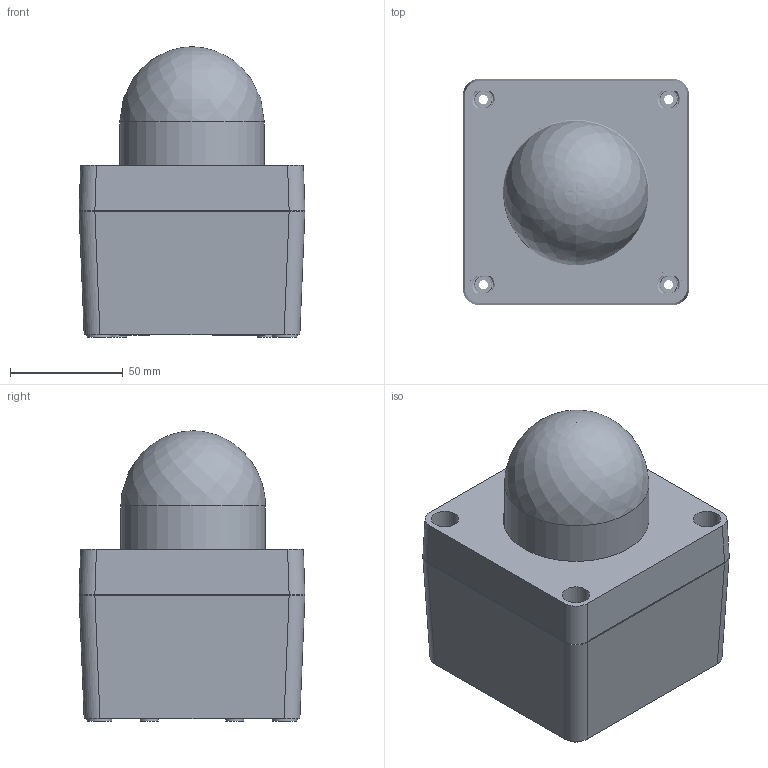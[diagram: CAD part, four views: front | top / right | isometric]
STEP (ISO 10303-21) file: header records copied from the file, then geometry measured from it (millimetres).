
FILE_DESCRIPTION(('FreeCAD Model'),'2;1');
FILE_NAME('Open CASCADE Shape Model','2025-11-28T23:17:06',(''),(''), 'Open CASCADE STEP processor 7.6','FreeCAD','Unknown');
FILE_SCHEMA(('AUTOMOTIVE_DESIGN { 1 0 10303 214 1 1 1 1 }'));
Length unit declared in the file: millimetre
Products named in the file (7): CameraCase100 Simplified; CameraCase100 O Ring 005; CameraCase100 Cap 004; CameraCase100 Body 004; 250312-DomeD64H59-009; 250312-DomeD64H35-005; Camera Case100 DomeBracket 006
Assembly tree (6 placements, depth 2):
  CameraCase100 Simplified
    CameraCase100 O Ring 005
    CameraCase100 Cap 004
    CameraCase100 Body 004
    250312-DomeD64H59-009
    250312-DomeD64H35-005
    Camera Case100 DomeBracket 006
Bounding box: 100 x 100 x 128.5 mm (x, y, z)
Volume: 241728.6 mm3; surface area: 157185.6 mm2
Topology: 6 solids, 6 shells, 911 faces, 2442 edges, 1619 vertices
Faces by surface type: plane 425, bspline 196, cylinder 130, extrusion 82, cone 54, torus 16, revolution 8
Full cylindrical faces by diameter (mm): 0.004 x1, 3.48 x8, 4.2 x8, 8 x4, 9 x4, 12 x8, 59 x1, 64 x1, 64.8 x1, 70.4 x1, 78.2 x1, 82 x2
Entity records: 210126 total; most frequent: CARTESIAN_POINT 166299, DIRECTION 6252, ORIENTED_EDGE 4880, PCURVE 4880, DEFINITIONAL_REPRESENTATION 4880, VECTOR 4008, LINE 3926, B_SPLINE_CURVE_WITH_KNOTS 2668
